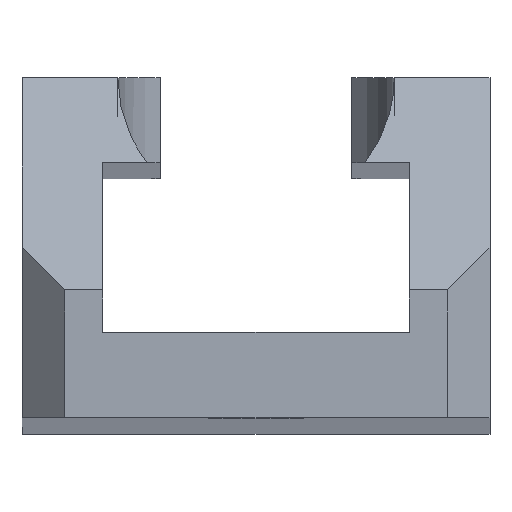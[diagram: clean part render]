
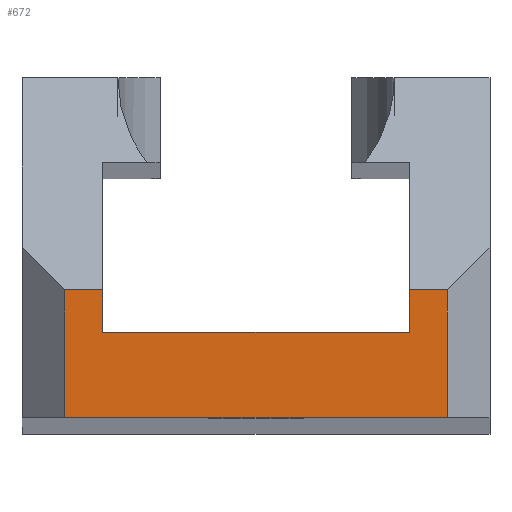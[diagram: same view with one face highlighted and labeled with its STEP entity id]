
A CAD part, top view. The second image highlights one B-rep face of the part: STEP entity #672.
In plain terms, the highlighted planar face has unit normal (0, 0, 1).
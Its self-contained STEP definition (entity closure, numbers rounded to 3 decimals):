
#12 = LINE ( 'NONE', #111, #756 ) ;
#45 = LINE ( 'NONE', #946, #1087 ) ;
#55 = CARTESIAN_POINT ( 'NONE',  ( -4.5, 0., 114. ) ) ;
#60 = CARTESIAN_POINT ( 'NONE',  ( 4.5, 0., 114. ) ) ;
#91 = FACE_OUTER_BOUND ( 'NONE', #736, .T. ) ;
#99 = VECTOR ( 'NONE', #884, 1000. ) ;
#103 = ORIENTED_EDGE ( 'NONE', *, *, #566, .T. ) ;
#107 = EDGE_CURVE ( 'NONE', #976, #588, #1130, .T. ) ;
#111 = CARTESIAN_POINT ( 'NONE',  ( -3.6, 6., 114. ) ) ;
#161 = ORIENTED_EDGE ( 'NONE', *, *, #808, .T. ) ;
#170 = LINE ( 'NONE', #60, #427 ) ;
#174 = ORIENTED_EDGE ( 'NONE', *, *, #1049, .T. ) ;
#197 = VERTEX_POINT ( 'NONE', #466 ) ;
#206 = CARTESIAN_POINT ( 'NONE',  ( 4.5, 0., 114. ) ) ;
#258 = VERTEX_POINT ( 'NONE', #590 ) ;
#297 = CARTESIAN_POINT ( 'NONE',  ( 3.6, 3., 114. ) ) ;
#319 = CARTESIAN_POINT ( 'NONE',  ( -4.5, 3., 114. ) ) ;
#344 = ORIENTED_EDGE ( 'NONE', *, *, #1418, .T. ) ;
#385 = DIRECTION ( 'NONE',  ( 0., 1., 0. ) ) ;
#410 = VERTEX_POINT ( 'NONE', #297 ) ;
#427 = VECTOR ( 'NONE', #385, 1000. ) ;
#453 = EDGE_CURVE ( 'NONE', #1065, #197, #170, .T. ) ;
#466 = CARTESIAN_POINT ( 'NONE',  ( 4.5, 3., 114. ) ) ;
#476 = CARTESIAN_POINT ( 'NONE',  ( -3.6, 3., 114. ) ) ;
#492 = DIRECTION ( 'NONE',  ( -1., 0., 0. ) ) ;
#502 = LINE ( 'NONE', #919, #622 ) ;
#566 = EDGE_CURVE ( 'NONE', #588, #1065, #1265, .T. ) ;
#586 = DIRECTION ( 'NONE',  ( -1., 0., 0. ) ) ;
#588 = VERTEX_POINT ( 'NONE', #55 ) ;
#590 = CARTESIAN_POINT ( 'NONE',  ( 3.6, 2., 114. ) ) ;
#612 = EDGE_CURVE ( 'NONE', #197, #410, #625, .T. ) ;
#615 = VECTOR ( 'NONE', #1025, 1000. ) ;
#622 = VECTOR ( 'NONE', #953, 1000. ) ;
#625 = LINE ( 'NONE', #1167, #1327 ) ;
#672 = ADVANCED_FACE ( 'NONE', ( #91 ), #982, .F. ) ;
#675 = CARTESIAN_POINT ( 'NONE',  ( -4.5, 0., 114. ) ) ;
#736 = EDGE_LOOP ( 'NONE', ( #174, #1155, #103, #1364, #1201, #1003, #161, #344 ) ) ;
#756 = VECTOR ( 'NONE', #771, 1000. ) ;
#769 = DIRECTION ( 'NONE',  ( -1., 0., 0. ) ) ;
#771 = DIRECTION ( 'NONE',  ( 0., 1., 0. ) ) ;
#808 = EDGE_CURVE ( 'NONE', #258, #996, #45, .T. ) ;
#849 = VERTEX_POINT ( 'NONE', #476 ) ;
#884 = DIRECTION ( 'NONE',  ( -1., 0., 0. ) ) ;
#919 = CARTESIAN_POINT ( 'NONE',  ( 3.6, 6., 114. ) ) ;
#946 = CARTESIAN_POINT ( 'NONE',  ( -3.6, 2., 114. ) ) ;
#953 = DIRECTION ( 'NONE',  ( 0., -1., 0. ) ) ;
#976 = VERTEX_POINT ( 'NONE', #319 ) ;
#982 = PLANE ( 'NONE',  #1359 ) ;
#993 = DIRECTION ( 'NONE',  ( 0., 0., -1. ) ) ;
#996 = VERTEX_POINT ( 'NONE', #1317 ) ;
#1001 = CARTESIAN_POINT ( 'NONE',  ( 0., 3., 114. ) ) ;
#1003 = ORIENTED_EDGE ( 'NONE', *, *, #1240, .T. ) ;
#1014 = VECTOR ( 'NONE', #1372, 1000. ) ;
#1025 = DIRECTION ( 'NONE',  ( 0., -1., 0. ) ) ;
#1049 = EDGE_CURVE ( 'NONE', #849, #976, #1405, .T. ) ;
#1065 = VERTEX_POINT ( 'NONE', #206 ) ;
#1087 = VECTOR ( 'NONE', #586, 1000. ) ;
#1130 = LINE ( 'NONE', #675, #615 ) ;
#1155 = ORIENTED_EDGE ( 'NONE', *, *, #107, .T. ) ;
#1167 = CARTESIAN_POINT ( 'NONE',  ( 0., 3., 114. ) ) ;
#1201 = ORIENTED_EDGE ( 'NONE', *, *, #612, .T. ) ;
#1218 = CARTESIAN_POINT ( 'NONE',  ( 0., 0., 114. ) ) ;
#1240 = EDGE_CURVE ( 'NONE', #410, #258, #502, .T. ) ;
#1265 = LINE ( 'NONE', #1365, #1014 ) ;
#1317 = CARTESIAN_POINT ( 'NONE',  ( -3.6, 2., 114. ) ) ;
#1327 = VECTOR ( 'NONE', #492, 1000. ) ;
#1359 = AXIS2_PLACEMENT_3D ( 'NONE', #1218, #993, #769 ) ;
#1364 = ORIENTED_EDGE ( 'NONE', *, *, #453, .T. ) ;
#1365 = CARTESIAN_POINT ( 'NONE',  ( -5.5, 0., 114. ) ) ;
#1372 = DIRECTION ( 'NONE',  ( 1., 0., 0. ) ) ;
#1405 = LINE ( 'NONE', #1001, #99 ) ;
#1418 = EDGE_CURVE ( 'NONE', #996, #849, #12, .T. ) ;
